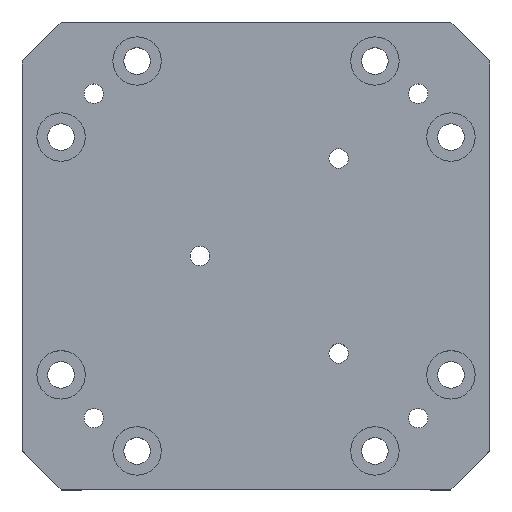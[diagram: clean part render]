
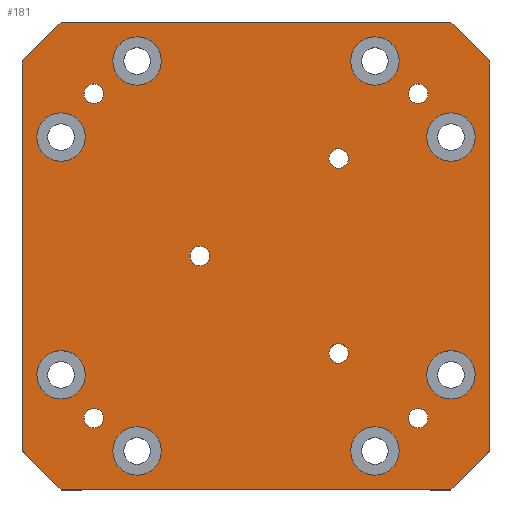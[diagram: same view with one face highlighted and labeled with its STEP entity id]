
A CAD part, top view. The second image highlights one B-rep face of the part: STEP entity #181.
In plain terms, the highlighted planar face has unit normal (0, 0, 1).
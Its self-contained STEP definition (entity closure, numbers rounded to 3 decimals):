
#79=FACE_BOUND('',#288,.T.);
#80=FACE_BOUND('',#289,.T.);
#81=FACE_BOUND('',#290,.T.);
#82=FACE_BOUND('',#291,.T.);
#83=FACE_BOUND('',#292,.T.);
#84=FACE_BOUND('',#293,.T.);
#85=FACE_BOUND('',#294,.T.);
#86=FACE_BOUND('',#295,.T.);
#87=FACE_BOUND('',#296,.T.);
#88=FACE_BOUND('',#297,.T.);
#89=FACE_BOUND('',#298,.T.);
#90=FACE_BOUND('',#299,.T.);
#91=FACE_BOUND('',#300,.T.);
#92=FACE_BOUND('',#301,.T.);
#93=FACE_BOUND('',#302,.T.);
#94=FACE_BOUND('',#303,.T.);
#181=ADVANCED_FACE('',(#79,#80,#81,#82,#83,#84,#85,#86,#87,#88,#89,#90,
#91,#92,#93,#94),#238,.T.);
#238=PLANE('',#1052);
#288=EDGE_LOOP('',(#516));
#289=EDGE_LOOP('',(#517));
#290=EDGE_LOOP('',(#518));
#291=EDGE_LOOP('',(#519));
#292=EDGE_LOOP('',(#520));
#293=EDGE_LOOP('',(#521));
#294=EDGE_LOOP('',(#522));
#295=EDGE_LOOP('',(#523));
#296=EDGE_LOOP('',(#524));
#297=EDGE_LOOP('',(#525));
#298=EDGE_LOOP('',(#526));
#299=EDGE_LOOP('',(#527));
#300=EDGE_LOOP('',(#528));
#301=EDGE_LOOP('',(#529));
#302=EDGE_LOOP('',(#530));
#303=EDGE_LOOP('',(#531,#532,#533,#534,#535,#536,#537,#538));
#406=CIRCLE('',#1037,1.55);
#407=CIRCLE('',#1038,1.55);
#408=CIRCLE('',#1039,1.55);
#409=CIRCLE('',#1040,1.55);
#410=CIRCLE('',#1041,0.625);
#411=CIRCLE('',#1042,0.625);
#412=CIRCLE('',#1043,0.625);
#413=CIRCLE('',#1044,1.55);
#414=CIRCLE('',#1045,1.55);
#415=CIRCLE('',#1046,1.55);
#416=CIRCLE('',#1047,1.55);
#417=CIRCLE('',#1048,0.625);
#418=CIRCLE('',#1049,0.625);
#419=CIRCLE('',#1050,0.625);
#420=CIRCLE('',#1051,0.625);
#516=ORIENTED_EDGE('',*,*,#838,.T.);
#517=ORIENTED_EDGE('',*,*,#839,.T.);
#518=ORIENTED_EDGE('',*,*,#840,.T.);
#519=ORIENTED_EDGE('',*,*,#841,.T.);
#520=ORIENTED_EDGE('',*,*,#842,.T.);
#521=ORIENTED_EDGE('',*,*,#843,.T.);
#522=ORIENTED_EDGE('',*,*,#844,.T.);
#523=ORIENTED_EDGE('',*,*,#845,.T.);
#524=ORIENTED_EDGE('',*,*,#846,.T.);
#525=ORIENTED_EDGE('',*,*,#847,.T.);
#526=ORIENTED_EDGE('',*,*,#848,.T.);
#527=ORIENTED_EDGE('',*,*,#849,.T.);
#528=ORIENTED_EDGE('',*,*,#850,.T.);
#529=ORIENTED_EDGE('',*,*,#851,.T.);
#530=ORIENTED_EDGE('',*,*,#852,.T.);
#531=ORIENTED_EDGE('',*,*,#836,.T.);
#532=ORIENTED_EDGE('',*,*,#853,.T.);
#533=ORIENTED_EDGE('',*,*,#817,.T.);
#534=ORIENTED_EDGE('',*,*,#854,.T.);
#535=ORIENTED_EDGE('',*,*,#824,.T.);
#536=ORIENTED_EDGE('',*,*,#855,.T.);
#537=ORIENTED_EDGE('',*,*,#830,.T.);
#538=ORIENTED_EDGE('',*,*,#856,.T.);
#722=VERTEX_POINT('',#1497);
#723=VERTEX_POINT('',#1499);
#726=VERTEX_POINT('',#1509);
#727=VERTEX_POINT('',#1511);
#730=VERTEX_POINT('',#1520);
#731=VERTEX_POINT('',#1522);
#734=VERTEX_POINT('',#1531);
#735=VERTEX_POINT('',#1533);
#736=VERTEX_POINT('',#1537);
#737=VERTEX_POINT('',#1539);
#738=VERTEX_POINT('',#1541);
#739=VERTEX_POINT('',#1543);
#740=VERTEX_POINT('',#1545);
#741=VERTEX_POINT('',#1547);
#742=VERTEX_POINT('',#1549);
#743=VERTEX_POINT('',#1551);
#744=VERTEX_POINT('',#1553);
#745=VERTEX_POINT('',#1555);
#746=VERTEX_POINT('',#1557);
#747=VERTEX_POINT('',#1559);
#748=VERTEX_POINT('',#1561);
#749=VERTEX_POINT('',#1563);
#750=VERTEX_POINT('',#1565);
#817=EDGE_CURVE('',#723,#722,#927,.T.);
#824=EDGE_CURVE('',#727,#726,#934,.T.);
#830=EDGE_CURVE('',#731,#730,#940,.T.);
#836=EDGE_CURVE('',#735,#734,#946,.T.);
#838=EDGE_CURVE('',#736,#736,#406,.T.);
#839=EDGE_CURVE('',#737,#737,#407,.T.);
#840=EDGE_CURVE('',#738,#738,#408,.T.);
#841=EDGE_CURVE('',#739,#739,#409,.T.);
#842=EDGE_CURVE('',#740,#740,#410,.T.);
#843=EDGE_CURVE('',#741,#741,#411,.T.);
#844=EDGE_CURVE('',#742,#742,#412,.T.);
#845=EDGE_CURVE('',#743,#743,#413,.T.);
#846=EDGE_CURVE('',#744,#744,#414,.T.);
#847=EDGE_CURVE('',#745,#745,#415,.T.);
#848=EDGE_CURVE('',#746,#746,#416,.T.);
#849=EDGE_CURVE('',#747,#747,#417,.T.);
#850=EDGE_CURVE('',#748,#748,#418,.T.);
#851=EDGE_CURVE('',#749,#749,#419,.T.);
#852=EDGE_CURVE('',#750,#750,#420,.T.);
#853=EDGE_CURVE('',#734,#723,#948,.T.);
#854=EDGE_CURVE('',#722,#727,#949,.T.);
#855=EDGE_CURVE('',#726,#731,#950,.T.);
#856=EDGE_CURVE('',#730,#735,#951,.T.);
#927=LINE('',#1498,#983);
#934=LINE('',#1510,#990);
#940=LINE('',#1521,#996);
#946=LINE('',#1532,#1002);
#948=LINE('',#1566,#1004);
#949=LINE('',#1567,#1005);
#950=LINE('',#1568,#1006);
#951=LINE('',#1569,#1007);
#983=VECTOR('',#1186,1.);
#990=VECTOR('',#1195,1.);
#996=VECTOR('',#1203,1.);
#1002=VECTOR('',#1211,1.);
#1004=VECTOR('',#1245,1.);
#1005=VECTOR('',#1246,1.);
#1006=VECTOR('',#1247,1.);
#1007=VECTOR('',#1248,1.);
#1037=AXIS2_PLACEMENT_3D('',#1536,#1215,#1216);
#1038=AXIS2_PLACEMENT_3D('',#1538,#1217,#1218);
#1039=AXIS2_PLACEMENT_3D('',#1540,#1219,#1220);
#1040=AXIS2_PLACEMENT_3D('',#1542,#1221,#1222);
#1041=AXIS2_PLACEMENT_3D('',#1544,#1223,#1224);
#1042=AXIS2_PLACEMENT_3D('',#1546,#1225,#1226);
#1043=AXIS2_PLACEMENT_3D('',#1548,#1227,#1228);
#1044=AXIS2_PLACEMENT_3D('',#1550,#1229,#1230);
#1045=AXIS2_PLACEMENT_3D('',#1552,#1231,#1232);
#1046=AXIS2_PLACEMENT_3D('',#1554,#1233,#1234);
#1047=AXIS2_PLACEMENT_3D('',#1556,#1235,#1236);
#1048=AXIS2_PLACEMENT_3D('',#1558,#1237,#1238);
#1049=AXIS2_PLACEMENT_3D('',#1560,#1239,#1240);
#1050=AXIS2_PLACEMENT_3D('',#1562,#1241,#1242);
#1051=AXIS2_PLACEMENT_3D('',#1564,#1243,#1244);
#1052=AXIS2_PLACEMENT_3D('',#1570,#1249,#1250);
#1186=DIRECTION('',(0.,-1.,0.));
#1195=DIRECTION('',(1.,0.,0.));
#1203=DIRECTION('',(0.,1.,0.));
#1211=DIRECTION('',(-1.,0.,0.));
#1215=DIRECTION('',(0.,0.,-1.));
#1216=DIRECTION('',(-1.,0.,0.));
#1217=DIRECTION('',(0.,0.,-1.));
#1218=DIRECTION('',(-1.,0.,0.));
#1219=DIRECTION('',(0.,0.,-1.));
#1220=DIRECTION('',(-1.,0.,0.));
#1221=DIRECTION('',(0.,0.,-1.));
#1222=DIRECTION('',(-1.,0.,0.));
#1223=DIRECTION('',(0.,0.,-1.));
#1224=DIRECTION('',(-1.,0.,0.));
#1225=DIRECTION('',(0.,0.,-1.));
#1226=DIRECTION('',(-1.,0.,0.));
#1227=DIRECTION('',(0.,0.,-1.));
#1228=DIRECTION('',(-1.,0.,0.));
#1229=DIRECTION('',(0.,0.,-1.));
#1230=DIRECTION('',(-1.,0.,0.));
#1231=DIRECTION('',(0.,0.,-1.));
#1232=DIRECTION('',(-1.,0.,0.));
#1233=DIRECTION('',(0.,0.,-1.));
#1234=DIRECTION('',(-1.,0.,0.));
#1235=DIRECTION('',(0.,0.,-1.));
#1236=DIRECTION('',(-1.,0.,0.));
#1237=DIRECTION('',(0.,0.,-1.));
#1238=DIRECTION('',(-1.,0.,0.));
#1239=DIRECTION('',(0.,0.,-1.));
#1240=DIRECTION('',(-1.,0.,0.));
#1241=DIRECTION('',(0.,0.,-1.));
#1242=DIRECTION('',(-1.,0.,0.));
#1243=DIRECTION('',(0.,0.,-1.));
#1244=DIRECTION('',(-1.,0.,0.));
#1245=DIRECTION('',(-0.707,-0.707,0.));
#1246=DIRECTION('',(0.707,-0.707,0.));
#1247=DIRECTION('',(0.707,0.707,0.));
#1248=DIRECTION('',(-0.707,0.707,0.));
#1249=DIRECTION('',(0.,0.,1.));
#1250=DIRECTION('',(1.,0.,0.));
#1497=CARTESIAN_POINT('',(-15.,-12.5,3.));
#1498=CARTESIAN_POINT('',(-15.,15.,3.));
#1499=CARTESIAN_POINT('',(-15.,12.5,3.));
#1509=CARTESIAN_POINT('',(12.5,-15.,3.));
#1510=CARTESIAN_POINT('',(-15.,-15.,3.));
#1511=CARTESIAN_POINT('',(-12.5,-15.,3.));
#1520=CARTESIAN_POINT('',(15.,12.5,3.));
#1521=CARTESIAN_POINT('',(15.,-15.,3.));
#1522=CARTESIAN_POINT('',(15.,-12.5,3.));
#1531=CARTESIAN_POINT('',(-12.5,15.,3.));
#1532=CARTESIAN_POINT('',(15.,15.,3.));
#1533=CARTESIAN_POINT('',(12.5,15.,3.));
#1536=CARTESIAN_POINT('',(-12.5,7.625,3.));
#1537=CARTESIAN_POINT('',(-14.05,7.625,3.));
#1538=CARTESIAN_POINT('',(12.5,7.625,3.));
#1539=CARTESIAN_POINT('',(10.95,7.625,3.));
#1540=CARTESIAN_POINT('',(-12.5,-7.625,3.));
#1541=CARTESIAN_POINT('',(-14.05,-7.625,3.));
#1542=CARTESIAN_POINT('',(12.5,-7.625,3.));
#1543=CARTESIAN_POINT('',(10.95,-7.625,3.));
#1544=CARTESIAN_POINT('',(5.3,6.25,3.));
#1545=CARTESIAN_POINT('',(4.675,6.25,3.));
#1546=CARTESIAN_POINT('',(5.3,-6.25,3.));
#1547=CARTESIAN_POINT('',(4.675,-6.25,3.));
#1548=CARTESIAN_POINT('',(-3.6,0.,3.));
#1549=CARTESIAN_POINT('',(-4.225,0.,3.));
#1550=CARTESIAN_POINT('',(7.625,12.5,3.));
#1551=CARTESIAN_POINT('',(6.075,12.5,3.));
#1552=CARTESIAN_POINT('',(7.625,-12.5,3.));
#1553=CARTESIAN_POINT('',(6.075,-12.5,3.));
#1554=CARTESIAN_POINT('',(-7.625,12.5,3.));
#1555=CARTESIAN_POINT('',(-9.175,12.5,3.));
#1556=CARTESIAN_POINT('',(-7.625,-12.5,3.));
#1557=CARTESIAN_POINT('',(-9.175,-12.5,3.));
#1558=CARTESIAN_POINT('',(10.4,10.4,3.));
#1559=CARTESIAN_POINT('',(9.775,10.4,3.));
#1560=CARTESIAN_POINT('',(10.4,-10.4,3.));
#1561=CARTESIAN_POINT('',(9.775,-10.4,3.));
#1562=CARTESIAN_POINT('',(-10.4,10.4,3.));
#1563=CARTESIAN_POINT('',(-11.025,10.4,3.));
#1564=CARTESIAN_POINT('',(-10.4,-10.4,3.));
#1565=CARTESIAN_POINT('',(-11.025,-10.4,3.));
#1566=CARTESIAN_POINT('',(-13.75,13.75,3.));
#1567=CARTESIAN_POINT('',(-13.75,-13.75,3.));
#1568=CARTESIAN_POINT('',(13.75,-13.75,3.));
#1569=CARTESIAN_POINT('',(13.75,13.75,3.));
#1570=CARTESIAN_POINT('',(0.,0.,3.));
